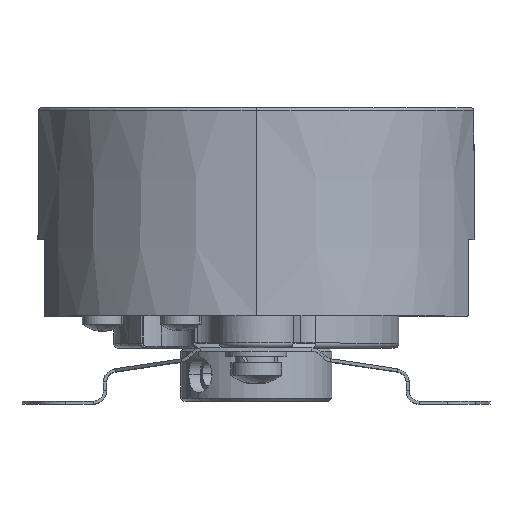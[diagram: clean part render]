
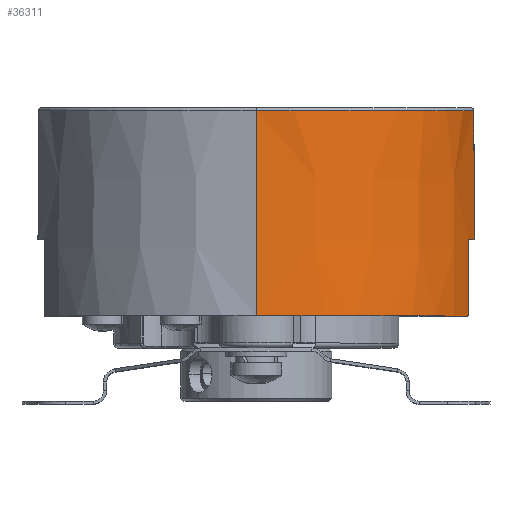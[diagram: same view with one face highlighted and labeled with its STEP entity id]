
A CAD part, top view. The second image highlights one B-rep face of the part: STEP entity #36311.
In plain terms, the highlighted conical face has half-angle 0.3 degrees and reference radius 21.8 mm.
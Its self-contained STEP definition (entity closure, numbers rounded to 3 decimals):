
#1036 = ORIENTED_EDGE ( 'NONE', *, *, #26182, .T. ) ;
#1298 = AXIS2_PLACEMENT_3D ( 'NONE', #32734, #6840, #15432 ) ;
#1846 = CARTESIAN_POINT ( 'NONE',  ( -29.347, 26.121, 4.414 ) ) ;
#1851 = ORIENTED_EDGE ( 'NONE', *, *, #13832, .T. ) ;
#3082 = CARTESIAN_POINT ( 'NONE',  ( -50.697, 26.419, 0. ) ) ;
#3189 = DIRECTION ( 'NONE',  ( 0., -1., 0. ) ) ;
#3615 = CARTESIAN_POINT ( 'NONE',  ( -29.347, 26.121, 4.414 ) ) ;
#3734 = CARTESIAN_POINT ( 'NONE',  ( -29.969, 5.969, 7.089 ) ) ;
#4395 = AXIS2_PLACEMENT_3D ( 'NONE', #13626, #7545, #13256 ) ;
#6202 = CARTESIAN_POINT ( 'NONE',  ( -29.281, 13.469, 4.423 ) ) ;
#6493 = CARTESIAN_POINT ( 'NONE',  ( -29.329, 22.737, 4.416 ) ) ;
#6498 = CARTESIAN_POINT ( 'NONE',  ( -29.943, 5.969, 7.013 ) ) ;
#6840 = DIRECTION ( 'NONE',  ( 0., -1., 0. ) ) ;
#6957 = DIRECTION ( 'NONE',  ( 0., -1., 0. ) ) ;
#6997 = CARTESIAN_POINT ( 'NONE',  ( -29.312, 19.353, 4.418 ) ) ;
#7003 = CARTESIAN_POINT ( 'NONE',  ( -29.918, 6.001, 6.939 ) ) ;
#7207 = DIRECTION ( 'NONE',  ( 0., 0., -1. ) ) ;
#7545 = DIRECTION ( 'NONE',  ( 0., -1., 0. ) ) ;
#7771 = B_SPLINE_CURVE_WITH_KNOTS ( 'NONE', 3,
 ( #32034, #23850, #32396, #26716, #6997, #6493, #3615 ),
 .UNSPECIFIED., .F., .F.,
 ( 4, 3, 4 ),
 ( 0.008, 0.01, 0.02 ),
 .UNSPECIFIED. ) ;
#7801 = EDGE_CURVE ( 'NONE', #12714, #24727, #12672, .T. ) ;
#9048 = CARTESIAN_POINT ( 'NONE',  ( -50.697, 26.419, 21.8 ) ) ;
#9222 = AXIS2_PLACEMENT_3D ( 'NONE', #3082, #3189, #20975 ) ;
#9372 = CARTESIAN_POINT ( 'NONE',  ( -29.883, 6.111, 6.831 ) ) ;
#10448 = EDGE_CURVE ( 'NONE', #24659, #24727, #31433, .T. ) ;
#10663 = CIRCLE ( 'NONE', #4395, 21.802 ) ;
#10967 = CARTESIAN_POINT ( 'NONE',  ( -29.873, 6.269, 6.799 ) ) ;
#11348 = CARTESIAN_POINT ( 'NONE',  ( -29.969, 5.969, 7.089 ) ) ;
#11404 = CARTESIAN_POINT ( 'NONE',  ( -50.697, 26.121, 21.802 ) ) ;
#12672 = B_SPLINE_CURVE_WITH_KNOTS ( 'NONE', 3,
 ( #22921, #28583, #20305, #28851 ),
 .UNSPECIFIED., .F., .F.,
 ( 4, 4 ),
 ( 0., 0.008 ),
 .UNSPECIFIED. ) ;
#12714 = VERTEX_POINT ( 'NONE', #10967 ) ;
#13256 = DIRECTION ( 'NONE',  ( 0., 0., -1. ) ) ;
#13626 = CARTESIAN_POINT ( 'NONE',  ( -50.697, 26.121, 0. ) ) ;
#13832 = EDGE_CURVE ( 'NONE', #20575, #28831, #31342, .T. ) ;
#15432 = DIRECTION ( 'NONE',  ( 0., 0., -1. ) ) ;
#15921 = EDGE_CURVE ( 'NONE', #29922, #28831, #35488, .T. ) ;
#15946 = CARTESIAN_POINT ( 'NONE',  ( -50.697, 5.969, 21.907 ) ) ;
#17629 = FACE_OUTER_BOUND ( 'NONE', #24690, .T. ) ;
#18129 = ORIENTED_EDGE ( 'NONE', *, *, #28615, .T. ) ;
#18189 = CARTESIAN_POINT ( 'NONE',  ( -29.873, 6.189, 6.799 ) ) ;
#19416 = ORIENTED_EDGE ( 'NONE', *, *, #24244, .T. ) ;
#19989 = DIRECTION ( 'NONE',  ( 0., -1., 0.005 ) ) ;
#20305 = CARTESIAN_POINT ( 'NONE',  ( -29.899, 11.069, 6.796 ) ) ;
#20575 = VERTEX_POINT ( 'NONE', #11404 ) ;
#20975 = DIRECTION ( 'NONE',  ( 0., 0., 1. ) ) ;
#22921 = CARTESIAN_POINT ( 'NONE',  ( -29.873, 6.269, 6.799 ) ) ;
#22984 = ORIENTED_EDGE ( 'NONE', *, *, #10448, .F. ) ;
#23850 = CARTESIAN_POINT ( 'NONE',  ( -29.285, 14.303, 4.422 ) ) ;
#24244 = EDGE_CURVE ( 'NONE', #24659, #36392, #7771, .T. ) ;
#24659 = VERTEX_POINT ( 'NONE', #6202 ) ;
#24690 = EDGE_LOOP ( 'NONE', ( #1036, #1851, #32753, #18129, #35910, #22984, #19416 ) ) ;
#24727 = VERTEX_POINT ( 'NONE', #26429 ) ;
#25019 = AXIS2_PLACEMENT_3D ( 'NONE', #27161, #6957, #7207 ) ;
#26182 = EDGE_CURVE ( 'NONE', #36392, #20575, #10663, .T. ) ;
#26429 = CARTESIAN_POINT ( 'NONE',  ( -29.911, 13.469, 6.794 ) ) ;
#26716 = CARTESIAN_POINT ( 'NONE',  ( -29.294, 15.969, 4.421 ) ) ;
#27161 = CARTESIAN_POINT ( 'NONE',  ( -50.697, 13.469, 0. ) ) ;
#28583 = CARTESIAN_POINT ( 'NONE',  ( -29.886, 8.669, 6.798 ) ) ;
#28615 = EDGE_CURVE ( 'NONE', #29922, #12714, #29183, .T. ) ;
#28831 = VERTEX_POINT ( 'NONE', #15946 ) ;
#28851 = CARTESIAN_POINT ( 'NONE',  ( -29.911, 13.469, 6.794 ) ) ;
#29183 = B_SPLINE_CURVE_WITH_KNOTS ( 'NONE', 3,
 ( #3734, #6498, #7003, #9372, #18189, #35058 ),
 .UNSPECIFIED., .F., .F.,
 ( 4, 2, 4 ),
 ( 0., 0., 0. ),
 .UNSPECIFIED. ) ;
#29601 = VECTOR ( 'NONE', #19989, 1000. ) ;
#29922 = VERTEX_POINT ( 'NONE', #11348 ) ;
#31342 = LINE ( 'NONE', #9048, #29601 ) ;
#31433 = CIRCLE ( 'NONE', #25019, 21.868 ) ;
#32034 = CARTESIAN_POINT ( 'NONE',  ( -29.281, 13.469, 4.423 ) ) ;
#32396 = CARTESIAN_POINT ( 'NONE',  ( -29.29, 15.136, 4.421 ) ) ;
#32734 = CARTESIAN_POINT ( 'NONE',  ( -50.697, 5.969, 0. ) ) ;
#32753 = ORIENTED_EDGE ( 'NONE', *, *, #15921, .F. ) ;
#35058 = CARTESIAN_POINT ( 'NONE',  ( -29.873, 6.269, 6.799 ) ) ;
#35326 = CONICAL_SURFACE ( 'NONE', #9222, 21.8, 0.005 ) ;
#35488 = CIRCLE ( 'NONE', #1298, 21.907 ) ;
#35910 = ORIENTED_EDGE ( 'NONE', *, *, #7801, .T. ) ;
#36311 = ADVANCED_FACE ( 'NONE', ( #17629 ), #35326, .T. ) ;
#36392 = VERTEX_POINT ( 'NONE', #1846 ) ;
